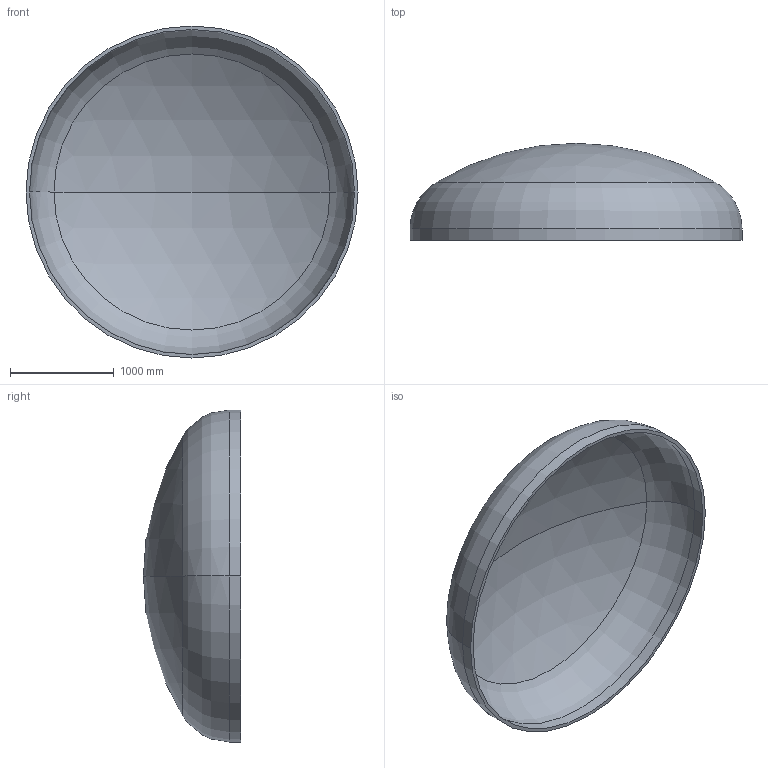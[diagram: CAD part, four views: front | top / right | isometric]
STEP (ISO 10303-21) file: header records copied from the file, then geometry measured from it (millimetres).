
FILE_DESCRIPTION (( 'STEP AP203' ), '1' );
FILE_NAME ('DIN 28013 Korbbogenform_-_Boden DIN 28013 - 3200 x 110 - I - s=34.step', '2016-07-01T18:32:41', ( '' ), ( '' ), 'SwSTEP 2.0', 'SolidWorks 2013', '' );
FILE_SCHEMA (( 'CONFIG_CONTROL_DESIGN' ));
Length unit declared in the file: millimetre
Products named in the file (1): DIN 28013 Korbbogenform_-_Boden DIN 28013 - 3200 x 110 - I - s=34
Bounding box: 3200 x 935.63 x 3200 mm (x, y, z)
Volume: 410214848.6 mm3; surface area: 24470871.1 mm2
Topology: 1 solids, 1 shells, 13 faces, 24 edges, 14 vertices
Faces by surface type: torus 4, cylinder 4, sphere 4, plane 1
Entity records: 407 total; most frequent: DIRECTION 72, CARTESIAN_POINT 52, ORIENTED_EDGE 48, AXIS2_PLACEMENT_3D 34, EDGE_CURVE 24, CIRCLE 20, EDGE_LOOP 14, VERTEX_POINT 14
